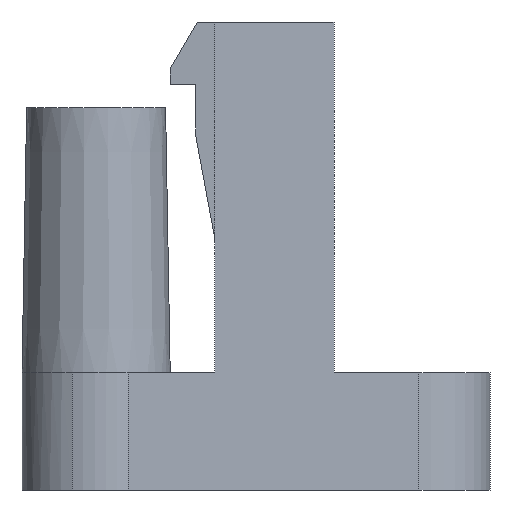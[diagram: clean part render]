
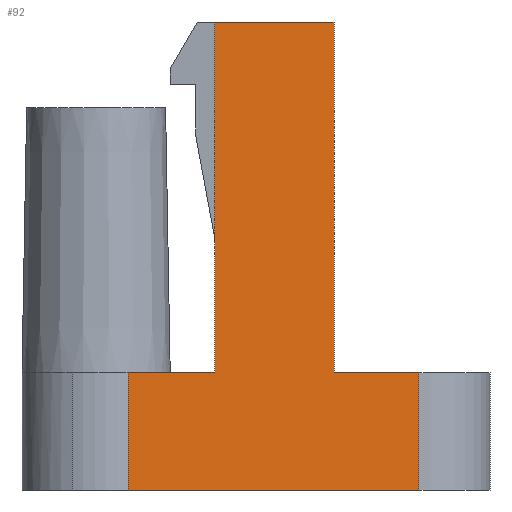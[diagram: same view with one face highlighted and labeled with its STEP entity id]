
A CAD part, left-side view. The second image highlights one B-rep face of the part: STEP entity #92.
In plain terms, the highlighted planar face has unit normal (-0.996, -0.087, 0).
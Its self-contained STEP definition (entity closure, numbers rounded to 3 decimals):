
#92 = ADVANCED_FACE( '', ( #150 ), #151, .T. );
#150 = FACE_OUTER_BOUND( '', #230, .T. );
#151 = PLANE( '', #231 );
#230 = EDGE_LOOP( '', ( #435, #436, #437, #438, #439, #440, #441, #442 ) );
#231 = AXIS2_PLACEMENT_3D( '', #443, #444, #445 );
#435 = ORIENTED_EDGE( '', *, *, #667, .T. );
#436 = ORIENTED_EDGE( '', *, *, #694, .T. );
#437 = ORIENTED_EDGE( '', *, *, #654, .T. );
#438 = ORIENTED_EDGE( '', *, *, #686, .F. );
#439 = ORIENTED_EDGE( '', *, *, #692, .F. );
#440 = ORIENTED_EDGE( '', *, *, #689, .F. );
#441 = ORIENTED_EDGE( '', *, *, #650, .T. );
#442 = ORIENTED_EDGE( '', *, *, #695, .F. );
#443 = CARTESIAN_POINT( '', ( -3.781, -1.087, 0. ) );
#444 = DIRECTION( '', ( -0.996, -0.087, 0. ) );
#445 = DIRECTION( '', ( 0.087, -0.996, 0. ) );
#650 = EDGE_CURVE( '', #788, #748, #789, .T. );
#654 = EDGE_CURVE( '', #796, #794, #797, .T. );
#667 = EDGE_CURVE( '', #819, #820, #821, .T. );
#686 = EDGE_CURVE( '', #852, #794, #853, .T. );
#689 = EDGE_CURVE( '', #788, #857, #858, .T. );
#692 = EDGE_CURVE( '', #857, #852, #862, .T. );
#694 = EDGE_CURVE( '', #820, #796, #864, .T. );
#695 = EDGE_CURVE( '', #819, #748, #865, .T. );
#748 = VERTEX_POINT( '', #935 );
#788 = VERTEX_POINT( '', #985 );
#789 = LINE( '', #986, #987 );
#794 = VERTEX_POINT( '', #994 );
#796 = VERTEX_POINT( '', #997 );
#797 = LINE( '', #998, #999 );
#819 = VERTEX_POINT( '', #1030 );
#820 = VERTEX_POINT( '', #1031 );
#821 = LINE( '', #1032, #1033 );
#852 = VERTEX_POINT( '', #1075 );
#853 = LINE( '', #1076, #1077 );
#857 = VERTEX_POINT( '', #1083 );
#858 = LINE( '', #1084, #1085 );
#862 = LINE( '', #1091, #1092 );
#864 = LINE( '', #1095, #1096 );
#865 = LINE( '', #1097, #1098 );
#935 = CARTESIAN_POINT( '', ( -4.107, 2.64, 1.5 ) );
#985 = CARTESIAN_POINT( '', ( -4.01, 1.529, 1.5 ) );
#986 = CARTESIAN_POINT( '', ( -4.107, 2.64, 1.5 ) );
#987 = VECTOR( '', #1241, 1. );
#994 = CARTESIAN_POINT( '', ( -3.876, 0., 1.5 ) );
#997 = CARTESIAN_POINT( '', ( -3.781, -1.087, 1.5 ) );
#998 = CARTESIAN_POINT( '', ( -4.107, 2.64, 1.5 ) );
#999 = VECTOR( '', #1245, 1. );
#1030 = CARTESIAN_POINT( '', ( -4.107, 2.64, 0. ) );
#1031 = CARTESIAN_POINT( '', ( -3.781, -1.087, 0. ) );
#1032 = CARTESIAN_POINT( '', ( -4.107, 2.64, 0. ) );
#1033 = VECTOR( '', #1264, 1. );
#1075 = CARTESIAN_POINT( '', ( -3.876, 0., 6. ) );
#1076 = CARTESIAN_POINT( '', ( -3.876, 0., 3. ) );
#1077 = VECTOR( '', #1297, 1. );
#1083 = CARTESIAN_POINT( '', ( -4.01, 1.529, 6. ) );
#1084 = CARTESIAN_POINT( '', ( -4.01, 1.529, 0. ) );
#1085 = VECTOR( '', #1300, 1. );
#1091 = CARTESIAN_POINT( '', ( -4.023, 1.677, 6. ) );
#1092 = VECTOR( '', #1303, 1. );
#1095 = CARTESIAN_POINT( '', ( -3.781, -1.087, 0. ) );
#1096 = VECTOR( '', #1305, 1. );
#1097 = CARTESIAN_POINT( '', ( -4.107, 2.64, 0. ) );
#1098 = VECTOR( '', #1306, 1. );
#1241 = DIRECTION( '', ( -0.087, 0.996, 0. ) );
#1245 = DIRECTION( '', ( -0.087, 0.996, 0. ) );
#1264 = DIRECTION( '', ( 0.087, -0.996, 0. ) );
#1297 = DIRECTION( '', ( 0., 0., -1. ) );
#1300 = DIRECTION( '', ( 0., 0., 1. ) );
#1303 = DIRECTION( '', ( 0.087, -0.996, 0. ) );
#1305 = DIRECTION( '', ( 0., 0., 1. ) );
#1306 = DIRECTION( '', ( 0., 0., 1. ) );
